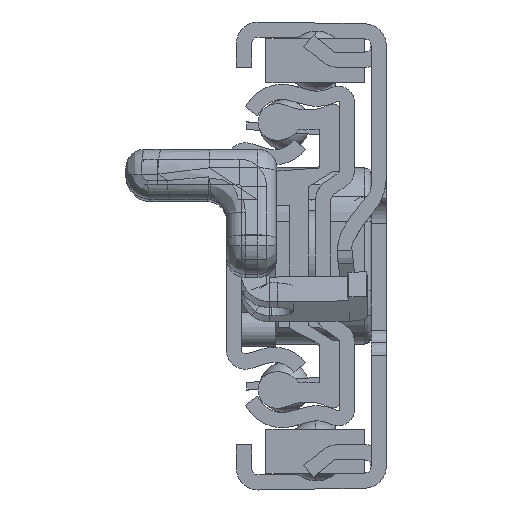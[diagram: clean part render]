
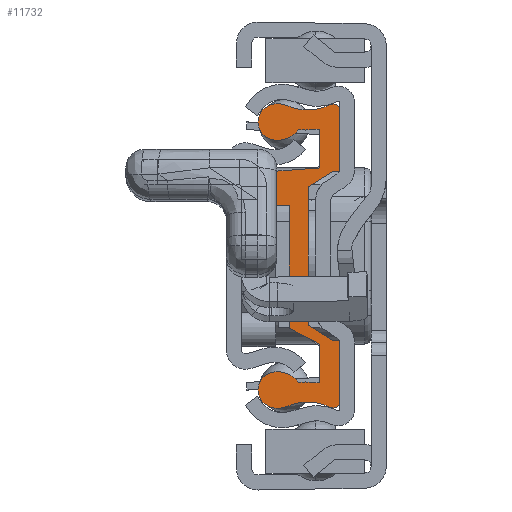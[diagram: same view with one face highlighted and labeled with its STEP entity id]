
A CAD part, left-side view. The second image highlights one B-rep face of the part: STEP entity #11732.
In plain terms, the highlighted planar face has unit normal (-1, 0, 0).
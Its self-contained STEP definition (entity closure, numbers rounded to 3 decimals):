
#11021=DIRECTION('',(0.,-1.,0.));
#11022=VECTOR('',#11021,0.5);
#11023=CARTESIAN_POINT('',(0.,0.5,6.75));
#11024=LINE('',#11023,#11022);
#11025=DIRECTION('',(0.,0.,-1.));
#11026=VECTOR('',#11025,11.);
#11027=CARTESIAN_POINT('',(0.,2.5,5.5));
#11028=LINE('',#11027,#11026);
#11029=DIRECTION('',(0.,1.,0.));
#11030=VECTOR('',#11029,0.5);
#11031=CARTESIAN_POINT('',(0.,0.,-6.75));
#11032=LINE('',#11031,#11030);
#11033=DIRECTION('',(0.,0.,-1.));
#11034=VECTOR('',#11033,4.85);
#11035=CARTESIAN_POINT('',(0.,0.,-6.75));
#11036=LINE('',#11035,#11034);
#11037=CARTESIAN_POINT('',(0.,0.5,-11.6));
#11038=DIRECTION('',(1.,0.,0.));
#11039=DIRECTION('',(0.,-1.,0.));
#11040=AXIS2_PLACEMENT_3D('',#11037,#11038,#11039);
#11042=CARTESIAN_POINT('',(0.,2.539,-15.612));
#11043=DIRECTION('',(-1.,0.,0.));
#11044=DIRECTION('',(0.,-0.453,0.891));
#11045=AXIS2_PLACEMENT_3D('',#11042,#11043,#11044);
#11047=CARTESIAN_POINT('',(0.,4.91,-10.1));
#11048=DIRECTION('',(1.,0.,0.));
#11049=DIRECTION('',(0.,-0.395,-0.919));
#11050=AXIS2_PLACEMENT_3D('',#11047,#11048,#11049);
#11052=CARTESIAN_POINT('',(0.,5.074,-10.65));
#11053=DIRECTION('',(1.,0.,0.));
#11054=DIRECTION('',(0.,0.286,-0.958));
#11055=AXIS2_PLACEMENT_3D('',#11052,#11053,#11054);
#11057=CARTESIAN_POINT('',(0.,4.91,-11.2));
#11058=DIRECTION('',(1.,0.,0.));
#11059=DIRECTION('',(0.,0.286,0.958));
#11060=AXIS2_PLACEMENT_3D('',#11057,#11058,#11059);
#11062=CARTESIAN_POINT('',(0.,4.91,-11.2));
#11063=DIRECTION('',(1.,0.,0.));
#11064=DIRECTION('',(0.,-0.395,0.919));
#11065=AXIS2_PLACEMENT_3D('',#11062,#11063,#11064);
#11067=CARTESIAN_POINT('',(0.,2.539,-15.612));
#11068=DIRECTION('',(1.,0.,0.));
#11069=DIRECTION('',(0.,0.13,0.992));
#11070=AXIS2_PLACEMENT_3D('',#11067,#11068,#11069);
#11072=DIRECTION('',(0.,0.,1.));
#11073=VECTOR('',#11072,3.09);
#11074=CARTESIAN_POINT('',(0.,1.605,-10.09));
#11075=LINE('',#11074,#11073);
#11076=DIRECTION('',(0.,0.887,0.463));
#11077=VECTOR('',#11076,2.701);
#11078=CARTESIAN_POINT('',(0.,1.605,-7.));
#11079=LINE('',#11078,#11077);
#11080=DIRECTION('',(0.,0.,1.));
#11081=VECTOR('',#11080,9.75);
#11082=CARTESIAN_POINT('',(0.,4.,-5.75));
#11083=LINE('',#11082,#11081);
#11084=DIRECTION('',(0.,0.999,0.033));
#11085=VECTOR('',#11084,3.002);
#11086=CARTESIAN_POINT('',(0.,4.,4.));
#11087=LINE('',#11086,#11085);
#11088=DIRECTION('',(0.,0.,1.));
#11089=VECTOR('',#11088,2.5);
#11090=CARTESIAN_POINT('',(0.,7.,4.1));
#11091=LINE('',#11090,#11089);
#11092=DIRECTION('',(0.,-0.997,0.074));
#11093=VECTOR('',#11092,5.41);
#11094=CARTESIAN_POINT('',(0.,7.,6.6));
#11095=LINE('',#11094,#11093);
#11096=DIRECTION('',(0.,0.,1.));
#11097=VECTOR('',#11096,3.09);
#11098=CARTESIAN_POINT('',(0.,1.605,7.));
#11099=LINE('',#11098,#11097);
#11100=CARTESIAN_POINT('',(0.,2.539,15.612));
#11101=DIRECTION('',(1.,0.,0.));
#11102=DIRECTION('',(0.,-0.167,-0.986));
#11103=AXIS2_PLACEMENT_3D('',#11100,#11101,#11102);
#11105=CARTESIAN_POINT('',(0.,4.91,11.2));
#11106=DIRECTION('',(1.,0.,0.));
#11107=DIRECTION('',(0.,-0.821,-0.57));
#11108=AXIS2_PLACEMENT_3D('',#11105,#11106,#11107);
#11110=CARTESIAN_POINT('',(0.,4.91,11.2));
#11111=DIRECTION('',(1.,0.,0.));
#11112=DIRECTION('',(0.,-0.395,-0.919));
#11113=AXIS2_PLACEMENT_3D('',#11110,#11111,#11112);
#11115=CARTESIAN_POINT('',(0.,5.074,10.65));
#11116=DIRECTION('',(1.,0.,0.));
#11117=DIRECTION('',(0.,0.286,-0.958));
#11118=AXIS2_PLACEMENT_3D('',#11115,#11116,#11117);
#11120=CARTESIAN_POINT('',(0.,4.91,10.1));
#11121=DIRECTION('',(1.,0.,0.));
#11122=DIRECTION('',(0.,0.286,0.958));
#11123=AXIS2_PLACEMENT_3D('',#11120,#11121,#11122);
#11125=CARTESIAN_POINT('',(0.,2.539,15.612));
#11126=DIRECTION('',(-1.,0.,0.));
#11127=DIRECTION('',(0.,0.395,-0.919));
#11128=AXIS2_PLACEMENT_3D('',#11125,#11126,#11127);
#11130=CARTESIAN_POINT('',(0.,0.5,11.6));
#11131=DIRECTION('',(1.,0.,0.));
#11132=DIRECTION('',(0.,0.453,0.891));
#11133=AXIS2_PLACEMENT_3D('',#11130,#11131,#11132);
#11135=DIRECTION('',(0.,0.,-1.));
#11136=VECTOR('',#11135,4.85);
#11137=CARTESIAN_POINT('',(0.,0.,11.6));
#11138=LINE('',#11137,#11136);
#11445=DIRECTION('',(0.,-0.848,0.53));
#11446=VECTOR('',#11445,2.358);
#11447=CARTESIAN_POINT('',(0.,2.5,5.5));
#11448=LINE('',#11447,#11446);
#11461=DIRECTION('',(0.,0.848,0.53));
#11462=VECTOR('',#11461,2.358);
#11463=CARTESIAN_POINT('',(0.,0.5,-6.75));
#11464=LINE('',#11463,#11462);
#11517=CARTESIAN_POINT('',(0.,4.12,-11.937));
#11518=CARTESIAN_POINT('',(0.,5.481,-12.017));
#11519=VERTEX_POINT('',#11517);
#11520=VERTEX_POINT('',#11518);
#11521=CARTESIAN_POINT('',(0.,5.481,-9.283));
#11522=VERTEX_POINT('',#11521);
#11523=CARTESIAN_POINT('',(0.,4.12,-9.363));
#11524=VERTEX_POINT('',#11523);
#11525=CARTESIAN_POINT('',(0.,3.267,-10.059));
#11526=VERTEX_POINT('',#11525);
#11527=CARTESIAN_POINT('',(0.,1.605,-10.09));
#11528=VERTEX_POINT('',#11527);
#11529=CARTESIAN_POINT('',(0.,1.605,10.09));
#11530=CARTESIAN_POINT('',(0.,3.267,10.059));
#11531=VERTEX_POINT('',#11529);
#11532=VERTEX_POINT('',#11530);
#11533=CARTESIAN_POINT('',(0.,4.12,9.363));
#11534=VERTEX_POINT('',#11533);
#11535=CARTESIAN_POINT('',(0.,5.481,9.283));
#11536=VERTEX_POINT('',#11535);
#11537=CARTESIAN_POINT('',(0.,5.481,12.017));
#11538=VERTEX_POINT('',#11537);
#11539=CARTESIAN_POINT('',(0.,4.12,11.937));
#11540=VERTEX_POINT('',#11539);
#11541=CARTESIAN_POINT('',(0.,0.727,12.046));
#11542=VERTEX_POINT('',#11541);
#11543=CARTESIAN_POINT('',(0.,0.,11.6));
#11544=VERTEX_POINT('',#11543);
#11545=CARTESIAN_POINT('',(0.,0.,-11.6));
#11546=CARTESIAN_POINT('',(0.,0.727,-12.046));
#11547=VERTEX_POINT('',#11545);
#11548=VERTEX_POINT('',#11546);
#11581=CARTESIAN_POINT('',(0.,1.605,-7.));
#11583=VERTEX_POINT('',#11581);
#11599=CARTESIAN_POINT('',(0.,0.,6.75));
#11600=VERTEX_POINT('',#11599);
#11601=CARTESIAN_POINT('',(0.,0.,-6.75));
#11602=VERTEX_POINT('',#11601);
#11603=CARTESIAN_POINT('',(0.,7.,4.1));
#11604=CARTESIAN_POINT('',(0.,7.,6.6));
#11605=VERTEX_POINT('',#11603);
#11606=VERTEX_POINT('',#11604);
#11611=CARTESIAN_POINT('',(0.,1.605,7.));
#11613=VERTEX_POINT('',#11611);
#11615=CARTESIAN_POINT('',(0.,4.,4.));
#11617=VERTEX_POINT('',#11615);
#11659=CARTESIAN_POINT('',(0.,2.5,5.5));
#11660=CARTESIAN_POINT('',(0.,0.5,6.75));
#11661=VERTEX_POINT('',#11659);
#11662=VERTEX_POINT('',#11660);
#11663=CARTESIAN_POINT('',(0.,0.5,-6.75));
#11664=CARTESIAN_POINT('',(0.,2.5,-5.5));
#11665=VERTEX_POINT('',#11663);
#11666=VERTEX_POINT('',#11664);
#11667=CARTESIAN_POINT('',(0.,4.,-5.75));
#11668=VERTEX_POINT('',#11667);
#11669=CARTESIAN_POINT('',(0.,0.,0.));
#11670=DIRECTION('',(1.,0.,0.));
#11671=DIRECTION('',(0.,0.,-1.));
#11672=AXIS2_PLACEMENT_3D('',#11669,#11670,#11671);
#11673=PLANE('',#11672);
#11675=ORIENTED_EDGE('',*,*,#11674,.F.);
#11677=ORIENTED_EDGE('',*,*,#11676,.F.);
#11679=ORIENTED_EDGE('',*,*,#11678,.T.);
#11681=ORIENTED_EDGE('',*,*,#11680,.F.);
#11683=ORIENTED_EDGE('',*,*,#11682,.F.);
#11685=ORIENTED_EDGE('',*,*,#11684,.T.);
#11687=ORIENTED_EDGE('',*,*,#11686,.T.);
#11689=ORIENTED_EDGE('',*,*,#11688,.T.);
#11691=ORIENTED_EDGE('',*,*,#11690,.T.);
#11693=ORIENTED_EDGE('',*,*,#11692,.T.);
#11695=ORIENTED_EDGE('',*,*,#11694,.T.);
#11697=ORIENTED_EDGE('',*,*,#11696,.T.);
#11699=ORIENTED_EDGE('',*,*,#11698,.T.);
#11701=ORIENTED_EDGE('',*,*,#11700,.T.);
#11703=ORIENTED_EDGE('',*,*,#11702,.T.);
#11705=ORIENTED_EDGE('',*,*,#11704,.T.);
#11707=ORIENTED_EDGE('',*,*,#11706,.T.);
#11709=ORIENTED_EDGE('',*,*,#11708,.T.);
#11711=ORIENTED_EDGE('',*,*,#11710,.T.);
#11713=ORIENTED_EDGE('',*,*,#11712,.T.);
#11715=ORIENTED_EDGE('',*,*,#11714,.T.);
#11717=ORIENTED_EDGE('',*,*,#11716,.T.);
#11719=ORIENTED_EDGE('',*,*,#11718,.T.);
#11721=ORIENTED_EDGE('',*,*,#11720,.T.);
#11723=ORIENTED_EDGE('',*,*,#11722,.T.);
#11725=ORIENTED_EDGE('',*,*,#11724,.T.);
#11727=ORIENTED_EDGE('',*,*,#11726,.T.);
#11729=ORIENTED_EDGE('',*,*,#11728,.T.);
#11730=EDGE_LOOP('',(#11675,#11677,#11679,#11681,#11683,#11685,#11687,#11689,
#11691,#11693,#11695,#11697,#11699,#11701,#11703,#11705,#11707,#11709,#11711,
#11713,#11715,#11717,#11719,#11721,#11723,#11725,#11727,#11729));
#11731=FACE_OUTER_BOUND('',#11730,.F.);
#11041=CIRCLE('',#11040,0.5);
#11046=CIRCLE('',#11045,4.);
#11051=CIRCLE('',#11050,2.);
#11056=CIRCLE('',#11055,1.426);
#11061=CIRCLE('',#11060,2.);
#11066=CIRCLE('',#11065,2.);
#11071=CIRCLE('',#11070,5.6);
#11104=CIRCLE('',#11103,5.6);
#11109=CIRCLE('',#11108,2.);
#11114=CIRCLE('',#11113,2.);
#11119=CIRCLE('',#11118,1.426);
#11124=CIRCLE('',#11123,2.);
#11129=CIRCLE('',#11128,4.);
#11134=CIRCLE('',#11133,0.5);
#11674=EDGE_CURVE('',#11662,#11600,#11024,.T.);
#11676=EDGE_CURVE('',#11661,#11662,#11448,.T.);
#11678=EDGE_CURVE('',#11661,#11666,#11028,.T.);
#11680=EDGE_CURVE('',#11665,#11666,#11464,.T.);
#11682=EDGE_CURVE('',#11602,#11665,#11032,.T.);
#11684=EDGE_CURVE('',#11602,#11547,#11036,.T.);
#11686=EDGE_CURVE('',#11547,#11548,#11041,.T.);
#11688=EDGE_CURVE('',#11548,#11519,#11046,.T.);
#11690=EDGE_CURVE('',#11519,#11520,#11051,.T.);
#11692=EDGE_CURVE('',#11520,#11522,#11056,.T.);
#11694=EDGE_CURVE('',#11522,#11524,#11061,.T.);
#11696=EDGE_CURVE('',#11524,#11526,#11066,.T.);
#11698=EDGE_CURVE('',#11526,#11528,#11071,.T.);
#11700=EDGE_CURVE('',#11528,#11583,#11075,.T.);
#11702=EDGE_CURVE('',#11583,#11668,#11079,.T.);
#11704=EDGE_CURVE('',#11668,#11617,#11083,.T.);
#11706=EDGE_CURVE('',#11617,#11605,#11087,.T.);
#11708=EDGE_CURVE('',#11605,#11606,#11091,.T.);
#11710=EDGE_CURVE('',#11606,#11613,#11095,.T.);
#11712=EDGE_CURVE('',#11613,#11531,#11099,.T.);
#11714=EDGE_CURVE('',#11531,#11532,#11104,.T.);
#11716=EDGE_CURVE('',#11532,#11534,#11109,.T.);
#11718=EDGE_CURVE('',#11534,#11536,#11114,.T.);
#11720=EDGE_CURVE('',#11536,#11538,#11119,.T.);
#11722=EDGE_CURVE('',#11538,#11540,#11124,.T.);
#11724=EDGE_CURVE('',#11540,#11542,#11129,.T.);
#11726=EDGE_CURVE('',#11542,#11544,#11134,.T.);
#11728=EDGE_CURVE('',#11544,#11600,#11138,.T.);
#11732=ADVANCED_FACE('',(#11731),#11673,.F.);
